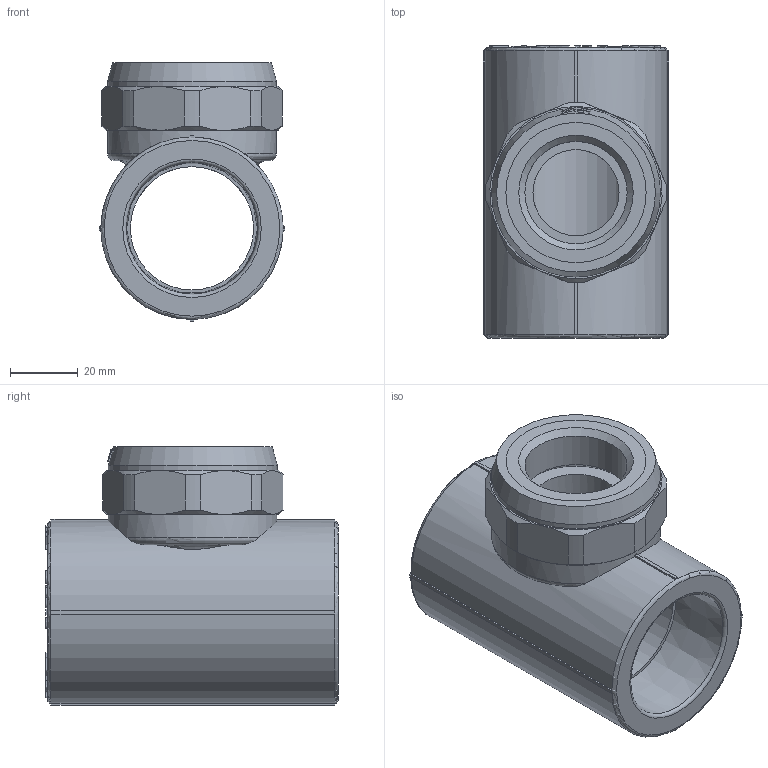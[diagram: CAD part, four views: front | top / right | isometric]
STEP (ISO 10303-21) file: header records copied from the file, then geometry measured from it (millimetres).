
FILE_DESCRIPTION(('STEP AP203'), '1');
FILE_NAME('ÂÐ.752241.041 - VTp.732.0.04006', '', ('UNSPECIFIED'), ('UNSPECIFIED'), 'C3D Converter', 'C3D Toolkit', '');
FILE_SCHEMA(('CONFIG_CONTROL_DESIGN'));
Length unit declared in the file: millimetre
Products named in the file (4): ВР.752241.041; ВР.302639.016.000; ВР.713661.003
Assembly tree (3 placements, depth 3):
  ВР.752241.041
    ВР.302639.016.000
      ВР.713661.003
      (unnamed)
Bounding box: 55 x 86.5 x 76.5 mm (x, y, z)
Volume: 132622.3 mm3; surface area: 44944.2 mm2
Topology: 3 solids, 3 shells, 818 faces, 2244 edges, 1488 vertices
Faces by surface type: extrusion 385, plane 364, cylinder 37, cone 19, torus 13
Full cylindrical faces by diameter (mm): 25.5 x1, 30.292 x1, 34 x2, 36.5 x1, 37.5 x8, 41.5 x10, 50 x2
Entity records: 29199 total; most frequent: CARTESIAN_POINT 9981, ORIENTED_EDGE 4380, DIRECTION 2748, EDGE_CURVE 2190, VECTOR 1526, VERTEX_POINT 1477, B_SPLINE_CURVE_WITH_KNOTS 1260, LINE 1141
